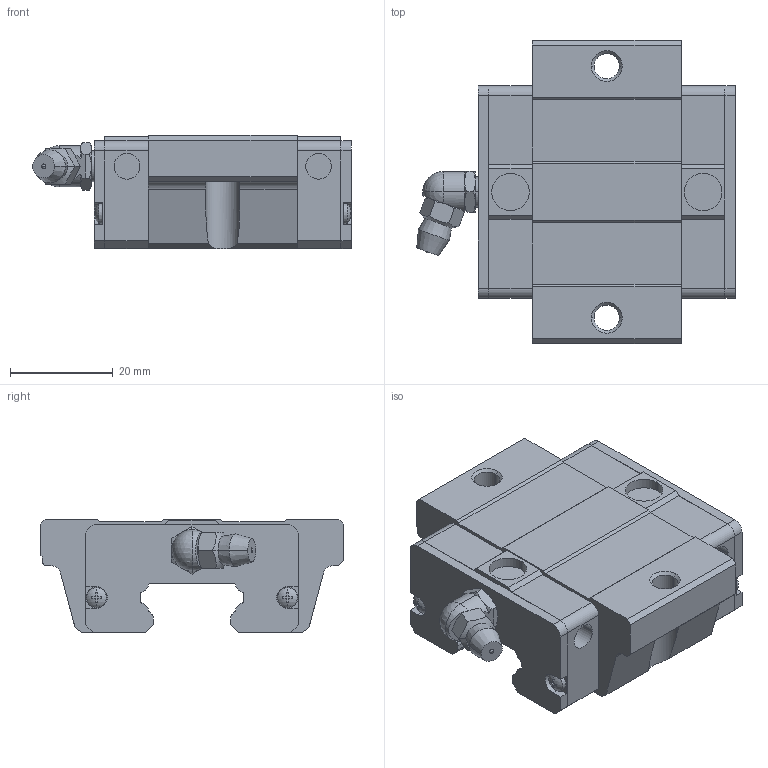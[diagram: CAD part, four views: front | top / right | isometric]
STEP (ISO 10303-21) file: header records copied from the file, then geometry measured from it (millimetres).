
FILE_DESCRIPTION(('starvars output'),'2;1');
FILE_NAME('cv20190610054508000020048.stp','05:45:09 2019/06/10',( 'Thomas Industrial Network Germany GmbH'),( 'Thomas Industrial Network Germany GmbH'),'unknown preprocess','ACIS' ,'unknown authorization');
FILE_SCHEMA(('CONFIG_CONTROL_DESIGN {UNKNOWN IMPLEMENTATION LEVEL}'));
Length unit declared in the file: millimetre
Products named in the file (10): PRODUCT_ID_1; PRODUCT_ID_2; PRODUCT_ID_3; PRODUCT_ID_4; PRODUCT_ID_5; PRODUCT_ID_6; PRODUCT_ID_7; PRODUCT_ID_8; PRODUCT_ID_9; PRODUCT_ID_10
Bounding box: 62 x 59 x 22 mm (x, y, z)
Volume: 42647.8 mm3; surface area: 17369.7 mm2
Topology: 10 solids, 10 shells, 411 faces, 1100 edges, 714 vertices
Faces by surface type: plane 227, cylinder 124, cone 48, sphere 12
Entity records: 12640 total; most frequent: ORIENTED_EDGE 2192, CARTESIAN_POINT 2086, DIRECTION 1867, EDGE_CURVE 1096, VERTEX_POINT 714, VECTOR 625, LINE 625, AXIS2_PLACEMENT_3D 621
